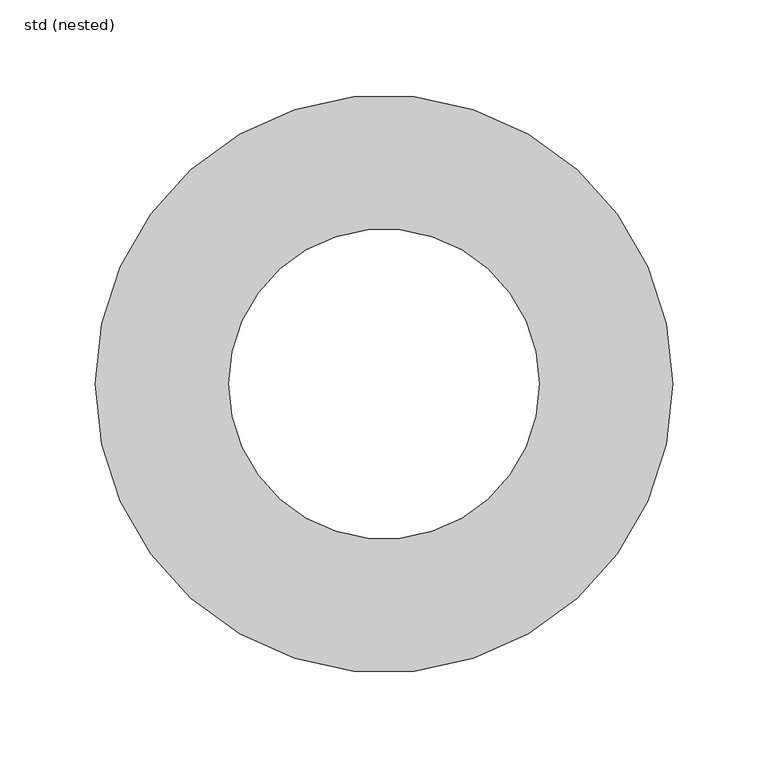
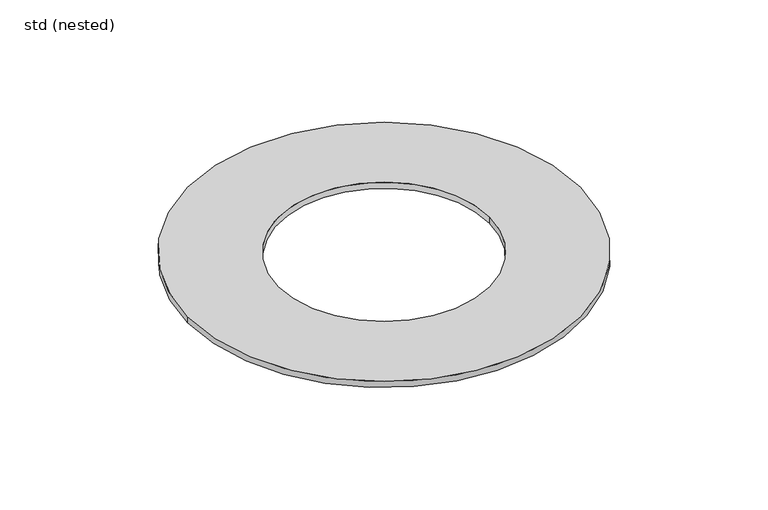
"""IFC4 building model written with IfcOpenShell, lengths in millimetres: sanitary terminal geometry, ZZZ_do not use_PF_GEN_flange seal_ACO : std (nested)."""

from ifc_helpers import new_model, si_unit, point, origin, origin_with_axes, origin_2d, place, context, project, spatial, circle_curve, trimmed, segment, composite_curve, outline, extrude, source, transform, mapped, element, save


def std_nested_315dc5ef(model_context):
    return source(origin(), model_context, "Body", "SweptSolid", [
        extrude(outline(composite_curve([segment(trimmed(circle_curve(origin_2d(), 151.25), [point((-151.25, 0.0))], [point((151.25, 0.0))], False, "CARTESIAN"), True, "CONTINUOUS"), segment(trimmed(circle_curve(origin_2d(), 151.25), [point((151.25, 0.0))], [point((-151.25, 0.0))], False, "CARTESIAN"), True, "CONTINUOUS")], self_intersect=False), holes=[composite_curve([segment(trimmed(circle_curve(origin_2d(), 81.25), [point((-81.25, 0.0))], [point((81.25, 0.0))], True, "CARTESIAN"), True, "CONTINUOUS"), segment(trimmed(circle_curve(origin_2d(), 81.25), [point((81.25, 0.0))], [point((-81.25, 0.0))], True, "CARTESIAN"), True, "CONTINUOUS")], self_intersect=False)]), origin_with_axes(), (0.0, 0.0, 1.0), 5.0),
    ])


if __name__ == "__main__":
    model = new_model("IFC4")
    model_context = context("Model", 3, world=origin())
    ifc_project = project(units=[si_unit("LENGTHUNIT", "METRE", prefix="MILLI")], contexts=[model_context])
    site = spatial("IfcSite", under=ifc_project)
    building = spatial("IfcBuilding", under=site)
    placement = place(None, origin())
    std_nested_shape = std_nested_315dc5ef(model_context)
    element("IfcSanitaryTerminal", 1, ObjectType="ZZZ_do not use_PF_GEN_flange seal_ACO : std (nested)", at=placement, inside=building, context=model_context, shape_type="MappedRepresentation", body=[
        mapped(std_nested_shape, transform((0.0, 0.0, 0.0), x_axis=(1.0, 0.0, 0.0), y_axis=(0.0, 1.0, 0.0), z_axis=(0.0, 0.0, 1.0))),
    ])
    save(model, "model.ifc")
